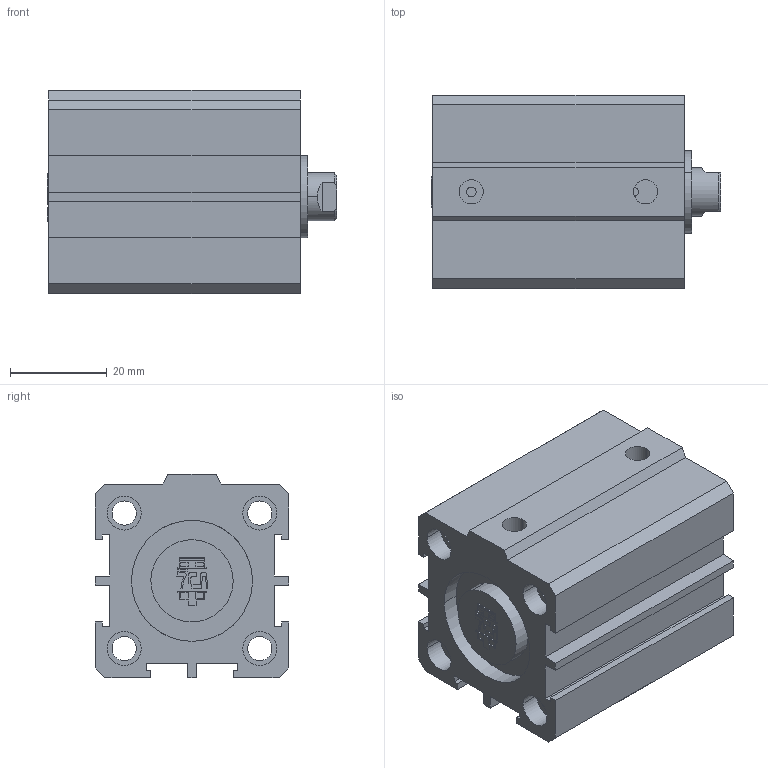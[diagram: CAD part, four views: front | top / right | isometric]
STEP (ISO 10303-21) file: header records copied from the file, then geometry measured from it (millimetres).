
FILE_DESCRIPTION(('CATIA V5 STEP Exchange'),'2;1');
FILE_NAME('D:\PDA\PDA-STP\PDA 25-10\PDA 25-10-20.stp','2016-02-02T10:36:00+00:00',('none'),('none'),'Version 5-6 Release 2012','CATIA V5 STEP AP203','none');
FILE_SCHEMA(('CONFIG_CONTROL_DESIGN'));
Length unit declared in the file: millimetre
Products named in the file (1): PDA 25-10-20-00
Assembly tree (2 placements, depth 2):
  PDA 25-10-20-00
    #58
    #6259
Bounding box: 59.75 x 40 x 42 mm (x, y, z)
Volume: 62823.4 mm3; surface area: 26477.4 mm2
Topology: 3 solids, 3 shells, 238 faces, 610 edges, 408 vertices
Faces by surface type: plane 166, cylinder 68, cone 4
Entity records: 6765 total; most frequent: ORIENTED_EDGE 1220, CARTESIAN_POINT 1208, DIRECTION 918, EDGE_CURVE 610, VECTOR 446, LINE 446, VERTEX_POINT 408, AXIS2_PLACEMENT_3D 314
